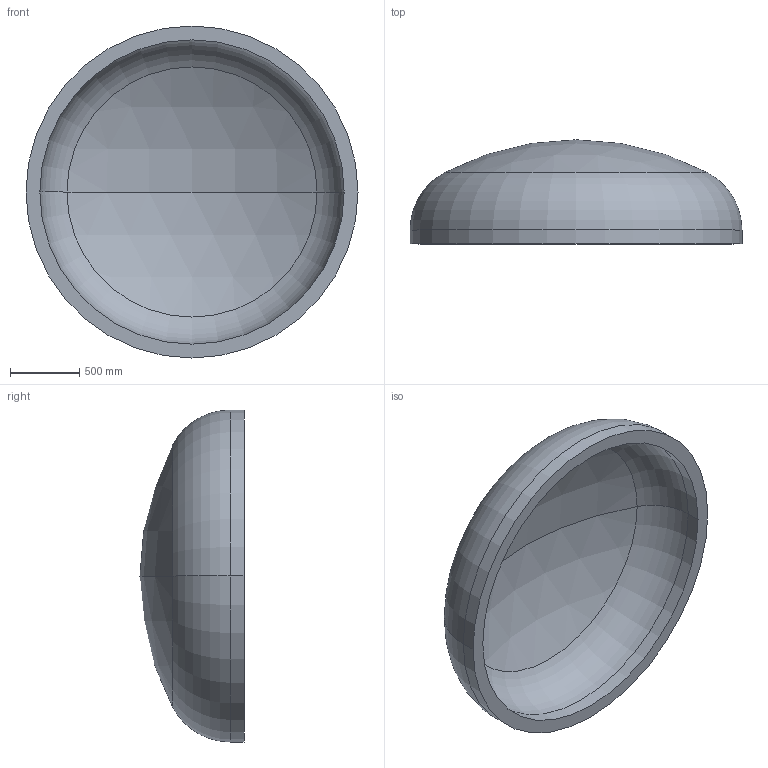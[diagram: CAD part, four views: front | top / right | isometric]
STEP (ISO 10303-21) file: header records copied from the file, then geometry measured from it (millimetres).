
FILE_DESCRIPTION (( 'STEP AP203' ), '1' );
FILE_NAME ('DIN 28013 Korbbogenform_-_Boden DIN 28013 - 2400 x 100 - I - s=100.step', '2016-07-01T15:42:08', ( '' ), ( '' ), 'SwSTEP 2.0', 'SolidWorks 2013', '' );
FILE_SCHEMA (( 'CONFIG_CONTROL_DESIGN' ));
Length unit declared in the file: millimetre
Products named in the file (1): DIN 28013 Korbbogenform_-_Boden DIN 28013 - 2400 x 100 - I - s=100
Bounding box: 2400 x 752.67 x 2400 mm (x, y, z)
Volume: 666055362.7 mm3; surface area: 14064613.6 mm2
Topology: 1 solids, 1 shells, 13 faces, 24 edges, 14 vertices
Faces by surface type: torus 4, cylinder 4, sphere 4, plane 1
Entity records: 407 total; most frequent: DIRECTION 72, CARTESIAN_POINT 52, ORIENTED_EDGE 48, AXIS2_PLACEMENT_3D 34, EDGE_CURVE 24, CIRCLE 20, EDGE_LOOP 14, VERTEX_POINT 14
